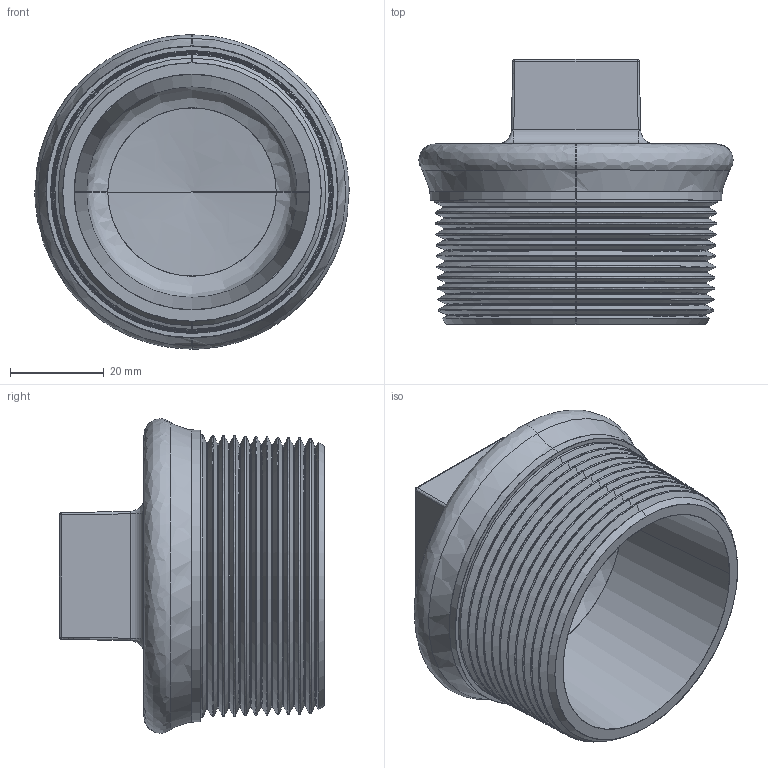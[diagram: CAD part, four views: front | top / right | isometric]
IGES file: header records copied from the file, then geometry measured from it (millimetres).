
Start section: SolidWorks IGES file using analytic representation for surfaces
Global section: file name: C:\Users\Joel Rosa\Desktop\Tubulação\12-03-OK\12-03-010.IGS; native system: SolidWorks 2011; preprocessor: SolidWorks 2011; author: Joel Rosa; date: 121203.234815; units: millimetre
Bounding box: 66.99 x 56.5 x 67 mm (x, y, z)
Surface area: 23469.6 mm2 (no closed solid volume)
Topology: 0 solids, 0 shells, 234 faces, 2018 edges, 2016 vertices
Faces by surface type: bspline 164, revolution 70
